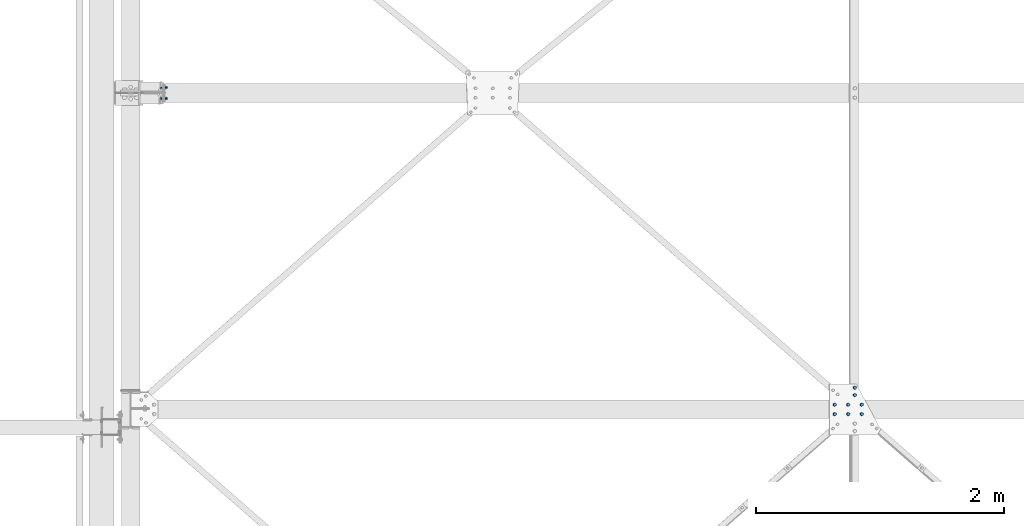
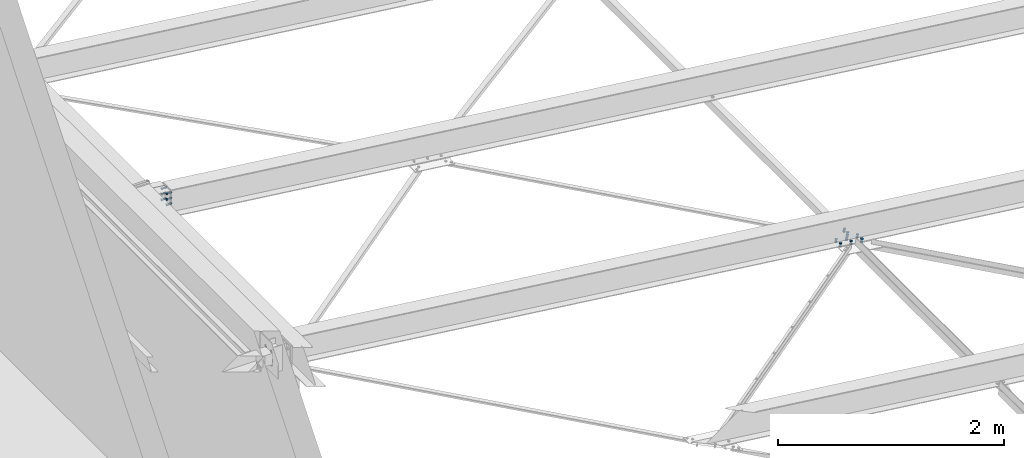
# One storey, part 30 of 3134: 3 mechanical fasteners, 3 elements without a shape of their own.
"""IFC2X3 building model written with IfcOpenShell, lengths in millimetres."""

from ifc_helpers import new_model, si_unit, frame, origin_with_axes, place, context, subcontext, project, spatial, faceted_brep, source, transform, mapped, material, type_object, element, aggregate, save


model = new_model("IFC2X3")

# Units and contexts
model_context = context("Model", 3, precision=1e-05, world=origin_with_axes())
body_context = subcontext(model_context, "Body", "Model", "MODEL_VIEW")
ifc_project = project(units=[si_unit("LENGTHUNIT", "METRE", prefix="MILLI"), si_unit("AREAUNIT", "SQUARE_METRE"), si_unit("VOLUMEUNIT", "CUBIC_METRE"), si_unit("MASSUNIT", "GRAM", prefix="KILO"), si_unit("TIMEUNIT", "SECOND"), si_unit("PLANEANGLEUNIT", "RADIAN"), si_unit("SOLIDANGLEUNIT", "STERADIAN"), si_unit("THERMODYNAMICTEMPERATUREUNIT", "DEGREE_CELSIUS"), si_unit("LUMINOUSINTENSITYUNIT", "LUMEN")], contexts=[model_context])

# Site, building, storey
site_placement = place(None, origin_with_axes())
site = spatial("IfcSite", under=ifc_project, at=site_placement, CompositionType="ELEMENT")
building_placement = place(site_placement, origin_with_axes())
building = spatial("IfcBuilding", under=site, at=building_placement, Name="Undefined", CompositionType="ELEMENT")
storey_placement = place(building_placement, origin_with_axes())
storey = spatial("IfcBuildingStorey", under=building, at=storey_placement, Name="Undefined", CompositionType="ELEMENT", Elevation=0.0)

# Assembly, mechanical fastener
assembly_1_placement = place(storey_placement, origin_with_axes())
assembly_1 = element("IfcElementAssembly", 1, at=assembly_1_placement, inside=storey, Name="IPE400", AssemblyPlace="NOTDEFINED", PredefinedType="RIGID_FRAME")
ifc_material = material(Name="8.8")
mechanical_fastener_type = type_object("IfcMechanicalFastenerType", Name="Bolt assembly")
shared_shape_1 = source(origin_with_axes(), body_context, "Body", "Brep", [
    faceted_brep([(13.856406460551, -33.499999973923, 0.0), (6.92820323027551, -33.499999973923, 12.0), (-6.92820323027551, -33.499999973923, 12.0), (-13.856406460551, -33.499999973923, 1.69692038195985e-15), (-6.92820323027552, -33.499999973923, -12.0), (6.9282032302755, -33.499999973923, -12.0), (6.9282032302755, -23.499999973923, -12.0), (-6.92820323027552, -23.499999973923, -12.0), (-13.856406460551, -23.499999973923, 1.69692038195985e-15), (-6.92820323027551, -23.499999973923, 12.0), (6.92820323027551, -23.499999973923, 12.0), (13.856406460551, -23.499999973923, 0.0), (8.0, -23.499999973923, 0.0), (6.92820323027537, -23.499999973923, 4.00000000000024), (3.99999999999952, -23.499999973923, 6.92820323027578), (-8.29068785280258e-13, -23.499999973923, 8.0), (-4.00000000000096, -23.499999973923, 6.92820323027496), (-6.9282032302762, -23.499999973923, 3.99999999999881), (-8.0, -23.499999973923, -1.65813757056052e-12), (-6.92820323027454, -23.499999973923, -4.00000000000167), (-3.99999999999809, -23.499999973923, -6.92820323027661), (2.47832457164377e-12, -23.499999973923, -8.0), (4.00000000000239, -23.499999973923, -6.92820323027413), (6.92820323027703, -23.499999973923, -3.99999999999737), (6.92820323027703, 21.500000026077, -3.99999999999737), (4.00000000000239, 21.500000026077, -6.92820323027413), (2.47832457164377e-12, 21.500000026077, -8.0), (-3.99999999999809, 21.500000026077, -6.92820323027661), (-6.92820323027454, 21.500000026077, -4.00000000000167), (-8.0, 21.500000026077, -1.65813757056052e-12), (-6.9282032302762, 21.500000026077, 3.99999999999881), (-4.00000000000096, 21.500000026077, 6.92820323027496), (-8.29068785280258e-13, 21.500000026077, 8.0), (3.99999999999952, 21.500000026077, 6.92820323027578), (6.92820323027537, 21.500000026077, 4.00000000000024), (8.0, 21.500000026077, 0.0), (13.856406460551, 0.0, 0.0), (6.92820323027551, 0.0, 12.0), (-6.92820323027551, 0.0, 12.0), (-13.856406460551, 0.0, 1.69692038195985e-15), (-6.92820323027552, 0.0, -12.0), (6.9282032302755, 0.0, -12.0), (6.9282032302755, 12.9999996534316, -12.0), (-6.92820323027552, 12.9999996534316, -12.0), (-13.856406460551, 12.9999996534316, 1.69692038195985e-15), (-6.92820323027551, 12.9999996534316, 12.0), (6.92820323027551, 12.9999996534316, 12.0), (13.856406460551, 12.9999996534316, 0.0)], [[[0, 1, 2, 3, 4, 5]], [[6, 7, 8, 9, 10, 11]], [[0, 11, 10, 1]], [[1, 10, 9, 2]], [[2, 9, 8, 3]], [[3, 8, 7, 4]], [[4, 7, 6, 5]], [[5, 6, 11, 0]], [[12, 13, 14, 15, 16, 17, 18, 19, 20, 21, 22, 23]], [[24, 25, 26, 27, 28, 29, 30, 31, 32, 33, 34, 35]], [[12, 35, 34, 13]], [[13, 34, 33, 14]], [[14, 33, 32, 15]], [[15, 32, 31, 16]], [[16, 31, 30, 17]], [[17, 30, 29, 18]], [[18, 29, 28, 19]], [[19, 28, 27, 20]], [[20, 27, 26, 21]], [[21, 26, 25, 22]], [[22, 25, 24, 23]], [[23, 24, 35, 12]], [[36, 37, 38, 39, 40, 41]], [[42, 43, 44, 45, 46, 47]], [[36, 47, 46, 37]], [[37, 46, 45, 38]], [[38, 45, 44, 39]], [[39, 44, 43, 40]], [[40, 43, 42, 41]], [[41, 42, 47, 36]]]),
    faceted_brep([(9.0, -10.1000003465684, 0.0), (7.79422863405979, -10.1000003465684, 4.50000000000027), (4.49999999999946, -10.1000003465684, 7.79422863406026), (-9.3270238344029e-13, -10.1000003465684, 9.0), (-4.50000000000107, -10.1000003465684, 7.79422863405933), (-7.79422863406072, -10.1000003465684, 4.49999999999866), (-9.0, -10.1000003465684, -1.86540476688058e-12), (-7.79422863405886, -10.1000003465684, -4.50000000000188), (-4.49999999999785, -10.1000003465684, -7.79422863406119), (2.78811514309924e-12, -10.1000003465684, -9.0), (4.50000000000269, -10.1000003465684, -7.7942286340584), (7.79422863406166, -10.1000003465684, -4.49999999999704), (7.79422863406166, -3.46568413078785e-07, -4.49999999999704), (4.50000000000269, -3.46568413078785e-07, -7.7942286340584), (2.78811514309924e-12, -3.46568413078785e-07, -9.0), (-4.49999999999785, -3.46568413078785e-07, -7.79422863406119), (-7.79422863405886, -3.46568413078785e-07, -4.50000000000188), (-9.0, -3.46568413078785e-07, -1.86540476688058e-12), (-7.79422863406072, -3.46568413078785e-07, 4.49999999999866), (-4.50000000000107, -3.46568413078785e-07, 7.79422863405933), (-9.3270238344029e-13, -3.46568413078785e-07, 9.0), (4.49999999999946, -3.46568413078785e-07, 7.79422863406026), (7.79422863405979, -3.46568413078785e-07, 4.50000000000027), (9.0, -3.46568413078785e-07, 0.0), (9.0, -23.399999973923, 0.0), (7.79422863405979, -23.399999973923, 4.50000000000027), (4.49999999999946, -23.399999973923, 7.79422863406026), (-9.3270238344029e-13, -23.399999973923, 9.0), (-4.50000000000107, -23.399999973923, 7.79422863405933), (-7.79422863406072, -23.399999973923, 4.49999999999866), (-9.0, -23.399999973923, -1.86540476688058e-12), (-7.79422863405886, -23.399999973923, -4.50000000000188), (-4.49999999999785, -23.399999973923, -7.79422863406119), (2.78811514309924e-12, -23.399999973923, -9.0), (4.50000000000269, -23.399999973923, -7.7942286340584), (7.79422863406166, -23.399999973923, -4.49999999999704), (7.79422863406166, -9.89999997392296, -4.49999999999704), (4.50000000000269, -9.89999997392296, -7.7942286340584), (2.78811514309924e-12, -9.89999997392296, -9.0), (-4.49999999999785, -9.89999997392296, -7.79422863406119), (-7.79422863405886, -9.89999997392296, -4.50000000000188), (-9.0, -9.89999997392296, -1.86540476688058e-12), (-7.79422863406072, -9.89999997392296, 4.49999999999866), (-4.50000000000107, -9.89999997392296, 7.79422863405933), (-9.3270238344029e-13, -9.89999997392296, 9.0), (4.49999999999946, -9.89999997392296, 7.79422863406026), (7.79422863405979, -9.89999997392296, 4.50000000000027), (9.0, -9.89999997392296, 0.0)], [[[0, 1, 2, 3, 4, 5, 6, 7, 8, 9, 10, 11]], [[12, 13, 14, 15, 16, 17, 18, 19, 20, 21, 22, 23]], [[0, 23, 22, 1]], [[1, 22, 21, 2]], [[2, 21, 20, 3]], [[3, 20, 19, 4]], [[4, 19, 18, 5]], [[5, 18, 17, 6]], [[6, 17, 16, 7]], [[7, 16, 15, 8]], [[8, 15, 14, 9]], [[9, 14, 13, 10]], [[10, 13, 12, 11]], [[11, 12, 23, 0]], [[24, 25, 26, 27, 28, 29, 30, 31, 32, 33, 34, 35]], [[36, 37, 38, 39, 40, 41, 42, 43, 44, 45, 46, 47]], [[24, 47, 46, 25]], [[25, 46, 45, 26]], [[26, 45, 44, 27]], [[27, 44, 43, 28]], [[28, 43, 42, 29]], [[29, 42, 41, 30]], [[30, 41, 40, 31]], [[31, 40, 39, 32]], [[32, 39, 38, 33]], [[33, 38, 37, 34]], [[34, 37, 36, 35]], [[35, 36, 47, 24]]]),
])
mechanical_fastener_1_placement = place(assembly_1_placement, frame((21125.0000003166, 7650.0, 5615.41113578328), z_axis=(0.0, 1.0, 0.0), x_axis=(0.0, 0.0, 1.0)))
mechanical_fastener_1 = element("IfcMechanicalFastener", 2, at=mechanical_fastener_1_placement, type_object=mechanical_fastener_type, material=ifc_material, Name="Bolt assembly", NominalDiameter=16.0, NominalLength=45.0, context=body_context, shape_type="MappedRepresentation", body=[
    mapped(shared_shape_1, transform((0.0, 0.0, -45.0))),
    mapped(shared_shape_1, transform((60.0, 0.0, -45.0))),
    mapped(shared_shape_1, transform((120.0, 0.0, -45.0))),
    mapped(shared_shape_1, transform((0.0, 0.0, 45.0))),
    mapped(shared_shape_1, transform((60.0, 0.0, 45.0))),
    mapped(shared_shape_1, transform((120.0, 0.0, 45.0))),
])
aggregate(assembly_1, [mechanical_fastener_1])

assembly_2_placement = place(storey_placement, origin_with_axes())
assembly_2 = element("IfcElementAssembly", 3, at=assembly_2_placement, inside=storey, Name="300", AssemblyPlace="NOTDEFINED", PredefinedType="RIGID_FRAME")
shared_shape_2 = source(origin_with_axes(), body_context, "Body", "Brep", [
    faceted_brep([(13.856406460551, -19.199990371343, 0.0), (6.92820323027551, -19.199990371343, 12.0), (-6.92820323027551, -19.199990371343, 12.0), (-13.856406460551, -19.199990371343, 1.69692038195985e-15), (-6.92820323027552, -19.199990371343, -12.0), (6.9282032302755, -19.199990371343, -12.0), (6.9282032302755, -9.19999037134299, -12.0), (-6.92820323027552, -9.19999037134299, -12.0), (-13.856406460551, -9.19999037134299, 1.69692038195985e-15), (-6.92820323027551, -9.19999037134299, 12.0), (6.92820323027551, -9.19999037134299, 12.0), (13.856406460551, -9.19999037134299, 0.0), (8.0, -9.19999037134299, 0.0), (6.92820323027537, -9.19999037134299, 4.00000000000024), (3.99999999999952, -9.19999037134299, 6.92820323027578), (-8.29068785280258e-13, -9.19999037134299, 8.0), (-4.00000000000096, -9.19999037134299, 6.92820323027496), (-6.9282032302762, -9.19999037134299, 3.99999999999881), (-8.0, -9.19999037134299, -1.65813757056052e-12), (-6.92820323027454, -9.19999037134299, -4.00000000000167), (-3.99999999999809, -9.19999037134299, -6.92820323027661), (2.47832457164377e-12, -9.19999037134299, -8.0), (4.00000000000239, -9.19999037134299, -6.92820323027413), (6.92820323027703, -9.19999037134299, -3.99999999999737), (6.92820323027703, 25.800009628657, -3.99999999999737), (4.00000000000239, 25.800009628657, -6.92820323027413), (2.47832457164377e-12, 25.800009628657, -8.0), (-3.99999999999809, 25.800009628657, -6.92820323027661), (-6.92820323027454, 25.800009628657, -4.00000000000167), (-8.0, 25.800009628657, -1.65813757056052e-12), (-6.9282032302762, 25.800009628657, 3.99999999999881), (-4.00000000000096, 25.800009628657, 6.92820323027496), (-8.29068785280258e-13, 25.800009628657, 8.0), (3.99999999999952, 25.800009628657, 6.92820323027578), (6.92820323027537, 25.800009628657, 4.00000000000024), (8.0, 25.800009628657, 0.0), (13.856406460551, 8.00000637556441, 0.0), (6.92820323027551, 8.00000637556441, 12.0), (-6.92820323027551, 8.00000637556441, 12.0), (-13.856406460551, 8.00000637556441, 1.69692038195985e-15), (-6.92820323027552, 8.00000637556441, -12.0), (6.9282032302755, 8.00000637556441, -12.0), (6.9282032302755, 21.0000063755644, -12.0), (-6.92820323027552, 21.0000063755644, -12.0), (-13.856406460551, 21.0000063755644, 1.69692038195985e-15), (-6.92820323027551, 21.0000063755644, 12.0), (6.92820323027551, 21.0000063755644, 12.0), (13.856406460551, 21.0000063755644, 0.0)], [[[0, 1, 2, 3, 4, 5]], [[6, 7, 8, 9, 10, 11]], [[0, 11, 10, 1]], [[1, 10, 9, 2]], [[2, 9, 8, 3]], [[3, 8, 7, 4]], [[4, 7, 6, 5]], [[5, 6, 11, 0]], [[12, 13, 14, 15, 16, 17, 18, 19, 20, 21, 22, 23]], [[24, 25, 26, 27, 28, 29, 30, 31, 32, 33, 34, 35]], [[12, 35, 34, 13]], [[13, 34, 33, 14]], [[14, 33, 32, 15]], [[15, 32, 31, 16]], [[16, 31, 30, 17]], [[17, 30, 29, 18]], [[18, 29, 28, 19]], [[19, 28, 27, 20]], [[20, 27, 26, 21]], [[21, 26, 25, 22]], [[22, 25, 24, 23]], [[23, 24, 35, 12]], [[36, 37, 38, 39, 40, 41]], [[42, 43, 44, 45, 46, 47]], [[36, 47, 46, 37]], [[37, 46, 45, 38]], [[38, 45, 44, 39]], [[39, 44, 43, 40]], [[40, 43, 42, 41]], [[41, 42, 47, 36]]]),
    faceted_brep([(9.0, -0.1, 0.0), (7.79422863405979, -0.1, 4.50000000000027), (4.49999999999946, -0.1, 7.79422863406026), (-9.3270238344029e-13, -0.1, 9.0), (-4.50000000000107, -0.1, 7.79422863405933), (-7.79422863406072, -0.1, 4.49999999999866), (-9.0, -0.1, -1.86540476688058e-12), (-7.79422863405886, -0.1, -4.50000000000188), (-4.49999999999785, -0.1, -7.79422863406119), (2.78811514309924e-12, -0.1, -9.0), (4.50000000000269, -0.1, -7.7942286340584), (7.79422863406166, -0.1, -4.49999999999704), (7.79422863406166, 8.00000000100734, -4.49999999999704), (4.50000000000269, 8.00000000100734, -7.7942286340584), (2.78811514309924e-12, 8.00000000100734, -9.0), (-4.49999999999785, 8.00000000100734, -7.79422863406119), (-7.79422863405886, 8.00000000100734, -4.50000000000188), (-9.0, 8.00000000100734, -1.86540476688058e-12), (-7.79422863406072, 8.00000000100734, 4.49999999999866), (-4.50000000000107, 8.00000000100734, 7.79422863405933), (-9.3270238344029e-13, 8.00000000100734, 9.0), (4.49999999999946, 8.00000000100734, 7.79422863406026), (7.79422863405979, 8.00000000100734, 4.50000000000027), (9.0, 8.00000000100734, 0.0), (9.0, -9.09999037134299, 0.0), (7.79422863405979, -9.09999037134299, 4.50000000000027), (4.49999999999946, -9.09999037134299, 7.79422863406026), (-9.3270238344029e-13, -9.09999037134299, 9.0), (-4.50000000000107, -9.09999037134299, 7.79422863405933), (-7.79422863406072, -9.09999037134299, 4.49999999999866), (-9.0, -9.09999037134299, -1.86540476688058e-12), (-7.79422863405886, -9.09999037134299, -4.50000000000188), (-4.49999999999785, -9.09999037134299, -7.79422863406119), (2.78811514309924e-12, -9.09999037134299, -9.0), (4.50000000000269, -9.09999037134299, -7.7942286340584), (7.79422863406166, -9.09999037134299, -4.49999999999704), (7.79422863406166, 0.100000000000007, -4.49999999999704), (4.50000000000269, 0.100000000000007, -7.7942286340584), (2.78811514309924e-12, 0.100000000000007, -9.0), (-4.49999999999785, 0.100000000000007, -7.79422863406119), (-7.79422863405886, 0.100000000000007, -4.50000000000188), (-9.0, 0.100000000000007, -1.86540476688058e-12), (-7.79422863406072, 0.100000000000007, 4.49999999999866), (-4.50000000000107, 0.100000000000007, 7.79422863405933), (-9.3270238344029e-13, 0.100000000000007, 9.0), (4.49999999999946, 0.100000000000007, 7.79422863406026), (7.79422863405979, 0.100000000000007, 4.50000000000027), (9.0, 0.100000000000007, 0.0)], [[[0, 1, 2, 3, 4, 5, 6, 7, 8, 9, 10, 11]], [[12, 13, 14, 15, 16, 17, 18, 19, 20, 21, 22, 23]], [[0, 23, 22, 1]], [[1, 22, 21, 2]], [[2, 21, 20, 3]], [[3, 20, 19, 4]], [[4, 19, 18, 5]], [[5, 18, 17, 6]], [[6, 17, 16, 7]], [[7, 16, 15, 8]], [[8, 15, 14, 9]], [[9, 14, 13, 10]], [[10, 13, 12, 11]], [[11, 12, 23, 0]], [[24, 25, 26, 27, 28, 29, 30, 31, 32, 33, 34, 35]], [[36, 37, 38, 39, 40, 41, 42, 43, 44, 45, 46, 47]], [[24, 47, 46, 25]], [[25, 46, 45, 26]], [[26, 45, 44, 27]], [[27, 44, 43, 28]], [[28, 43, 42, 29]], [[29, 42, 41, 30]], [[30, 41, 40, 31]], [[31, 40, 39, 32]], [[32, 39, 38, 33]], [[33, 38, 37, 34]], [[34, 37, 36, 35]], [[35, 36, 47, 24]]]),
])
mechanical_fastener_2_placement = place(assembly_2_placement, frame((26633.3906860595, 5062.0, 4813.40180628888), z_axis=(-0.992623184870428, 0.0, 0.121240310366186), x_axis=(0.0, 1.0, 0.0)))
mechanical_fastener_2 = element("IfcMechanicalFastener", 4, at=mechanical_fastener_2_placement, type_object=mechanical_fastener_type, material=ifc_material, Name="Bolt assembly", NominalDiameter=16.0, NominalLength=35.0, context=body_context, shape_type="MappedRepresentation", body=[
    mapped(shared_shape_2, transform((0.0, 1.8644641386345e-10, -109.999999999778))),
    mapped(shared_shape_2, transform((76.0, 1.8644641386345e-10, -109.999999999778))),
    mapped(shared_shape_2, transform((0.0, 0.0, 0.0))),
    mapped(shared_shape_2, transform((76.0, 0.0, 0.0))),
    mapped(shared_shape_2, transform((0.0, -1.8644641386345e-10, 109.999999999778))),
    mapped(shared_shape_2, transform((76.0, -1.8644641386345e-10, 109.999999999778))),
])
aggregate(assembly_2, [mechanical_fastener_2])

assembly_3_placement = place(storey_placement, origin_with_axes())
assembly_3 = element("IfcElementAssembly", 5, at=assembly_3_placement, inside=storey, Name="PL8", AssemblyPlace="NOTDEFINED", PredefinedType="RIGID_FRAME")
shared_shape_3 = source(origin_with_axes(), body_context, "Body", "Brep", [
    faceted_brep([(13.856406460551, -10.0, 0.0), (6.92820323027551, -10.0, 12.0), (-6.92820323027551, -10.0, 12.0), (-13.856406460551, -10.0, 1.69692038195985e-15), (-6.92820323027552, -10.0, -12.0), (6.9282032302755, -10.0, -12.0), (6.9282032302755, 0.0, -12.0), (-6.92820323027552, 0.0, -12.0), (-13.856406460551, 0.0, 1.69692038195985e-15), (-6.92820323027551, 0.0, 12.0), (6.92820323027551, 0.0, 12.0), (13.856406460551, 0.0, 0.0), (8.0, 0.0, 0.0), (6.92820323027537, 0.0, 4.00000000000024), (3.99999999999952, 0.0, 6.92820323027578), (-8.29068785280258e-13, 0.0, 8.0), (-4.00000000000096, 0.0, 6.92820323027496), (-6.9282032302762, 0.0, 3.99999999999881), (-8.0, 0.0, -1.65813757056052e-12), (-6.92820323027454, 0.0, -4.00000000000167), (-3.99999999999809, 0.0, -6.92820323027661), (2.47832457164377e-12, 0.0, -8.0), (4.00000000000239, 0.0, -6.92820323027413), (6.92820323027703, 0.0, -3.99999999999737), (6.92820323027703, 35.0000000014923, -3.99999999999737), (4.00000000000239, 35.0000000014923, -6.92820323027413), (2.47832457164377e-12, 35.0000000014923, -8.0), (-3.99999999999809, 35.0000000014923, -6.92820323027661), (-6.92820323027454, 35.0000000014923, -4.00000000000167), (-8.0, 35.0000000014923, -1.65813757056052e-12), (-6.9282032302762, 35.0000000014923, 3.99999999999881), (-4.00000000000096, 35.0000000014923, 6.92820323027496), (-8.29068785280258e-13, 35.0000000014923, 8.0), (3.99999999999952, 35.0000000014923, 6.92820323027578), (6.92820323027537, 35.0000000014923, 4.00000000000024), (8.0, 35.0000000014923, 0.0), (13.856406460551, 14.9999995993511, 0.0), (6.92820323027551, 14.9999995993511, 12.0), (-6.92820323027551, 14.9999995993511, 12.0), (-13.856406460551, 14.9999995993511, 1.69692038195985e-15), (-6.92820323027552, 14.9999995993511, -12.0), (6.9282032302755, 14.9999995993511, -12.0), (6.9282032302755, 27.9999995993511, -12.0), (-6.92820323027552, 27.9999995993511, -12.0), (-13.856406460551, 27.9999995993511, 1.69692038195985e-15), (-6.92820323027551, 27.9999995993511, 12.0), (6.92820323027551, 27.9999995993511, 12.0), (13.856406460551, 27.9999995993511, 0.0)], [[[0, 1, 2, 3, 4, 5]], [[6, 7, 8, 9, 10, 11]], [[0, 11, 10, 1]], [[1, 10, 9, 2]], [[2, 9, 8, 3]], [[3, 8, 7, 4]], [[4, 7, 6, 5]], [[5, 6, 11, 0]], [[12, 13, 14, 15, 16, 17, 18, 19, 20, 21, 22, 23]], [[24, 25, 26, 27, 28, 29, 30, 31, 32, 33, 34, 35]], [[12, 35, 34, 13]], [[13, 34, 33, 14]], [[14, 33, 32, 15]], [[15, 32, 31, 16]], [[16, 31, 30, 17]], [[17, 30, 29, 18]], [[18, 29, 28, 19]], [[19, 28, 27, 20]], [[20, 27, 26, 21]], [[21, 26, 25, 22]], [[22, 25, 24, 23]], [[23, 24, 35, 12]], [[36, 37, 38, 39, 40, 41]], [[42, 43, 44, 45, 46, 47]], [[36, 47, 46, 37]], [[37, 46, 45, 38]], [[38, 45, 44, 39]], [[39, 44, 43, 40]], [[40, 43, 42, 41]], [[41, 42, 47, 36]]]),
    faceted_brep([(9.0, 7.9, 0.0), (7.79422863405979, 7.9, 4.50000000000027), (4.49999999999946, 7.9, 7.79422863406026), (-9.3270238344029e-13, 7.9, 9.0), (-4.50000000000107, 7.9, 7.79422863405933), (-7.79422863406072, 7.9, 4.49999999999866), (-9.0, 7.9, -1.86540476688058e-12), (-7.79422863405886, 7.9, -4.50000000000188), (-4.49999999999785, 7.9, -7.79422863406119), (2.78811514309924e-12, 7.9, -9.0), (4.50000000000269, 7.9, -7.7942286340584), (7.79422863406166, 7.9, -4.49999999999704), (7.79422863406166, 14.9999995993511, -4.49999999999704), (4.50000000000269, 14.9999995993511, -7.7942286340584), (2.78811514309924e-12, 14.9999995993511, -9.0), (-4.49999999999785, 14.9999995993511, -7.79422863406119), (-7.79422863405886, 14.9999995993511, -4.50000000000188), (-9.0, 14.9999995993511, -1.86540476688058e-12), (-7.79422863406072, 14.9999995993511, 4.49999999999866), (-4.50000000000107, 14.9999995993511, 7.79422863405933), (-9.3270238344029e-13, 14.9999995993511, 9.0), (4.49999999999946, 14.9999995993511, 7.79422863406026), (7.79422863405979, 14.9999995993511, 4.50000000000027), (9.0, 14.9999995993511, 0.0), (9.0, 0.100000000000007, 0.0), (7.79422863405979, 0.100000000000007, 4.50000000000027), (4.49999999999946, 0.100000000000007, 7.79422863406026), (-9.3270238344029e-13, 0.100000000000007, 9.0), (-4.50000000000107, 0.100000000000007, 7.79422863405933), (-7.79422863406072, 0.100000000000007, 4.49999999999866), (-9.0, 0.100000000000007, -1.86540476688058e-12), (-7.79422863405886, 0.100000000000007, -4.50000000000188), (-4.49999999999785, 0.100000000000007, -7.79422863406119), (2.78811514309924e-12, 0.100000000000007, -9.0), (4.50000000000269, 0.100000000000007, -7.7942286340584), (7.79422863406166, 0.100000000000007, -4.49999999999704), (7.79422863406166, 8.1, -4.49999999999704), (4.50000000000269, 8.1, -7.7942286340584), (2.78811514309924e-12, 8.1, -9.0), (-4.49999999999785, 8.1, -7.79422863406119), (-7.79422863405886, 8.1, -4.50000000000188), (-9.0, 8.1, -1.86540476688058e-12), (-7.79422863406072, 8.1, 4.49999999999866), (-4.50000000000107, 8.1, 7.79422863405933), (-9.3270238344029e-13, 8.1, 9.0), (4.49999999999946, 8.1, 7.79422863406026), (7.79422863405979, 8.1, 4.50000000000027), (9.0, 8.1, 0.0)], [[[0, 1, 2, 3, 4, 5, 6, 7, 8, 9, 10, 11]], [[12, 13, 14, 15, 16, 17, 18, 19, 20, 21, 22, 23]], [[0, 23, 22, 1]], [[1, 22, 21, 2]], [[2, 21, 20, 3]], [[3, 20, 19, 4]], [[4, 19, 18, 5]], [[5, 18, 17, 6]], [[6, 17, 16, 7]], [[7, 16, 15, 8]], [[8, 15, 14, 9]], [[9, 14, 13, 10]], [[10, 13, 12, 11]], [[11, 12, 23, 0]], [[24, 25, 26, 27, 28, 29, 30, 31, 32, 33, 34, 35]], [[36, 37, 38, 39, 40, 41, 42, 43, 44, 45, 46, 47]], [[24, 47, 46, 25]], [[25, 46, 45, 26]], [[26, 45, 44, 27]], [[27, 44, 43, 28]], [[28, 43, 42, 29]], [[29, 42, 41, 30]], [[30, 41, 40, 31]], [[31, 40, 39, 32]], [[32, 39, 38, 33]], [[33, 38, 37, 34]], [[34, 37, 36, 35]], [[35, 36, 47, 24]]]),
])
mechanical_fastener_3_placement = place(assembly_3_placement, frame((26687.9849612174, 5274.99999999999, 4806.733589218), z_axis=(0.992623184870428, 0.0, -0.121240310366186), x_axis=(0.0, -1.0, 0.0)))
mechanical_fastener_3 = element("IfcMechanicalFastener", 6, at=mechanical_fastener_3_placement, type_object=mechanical_fastener_type, material=ifc_material, Name="Bolt assembly", NominalDiameter=16.0, NominalLength=35.0, context=body_context, shape_type="MappedRepresentation", body=[
    mapped(shared_shape_3, transform((0.0, 0.0, 0.0))),
    mapped(shared_shape_3, transform((59.9999999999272, 0.0, 5.40239852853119e-10))),
])
aggregate(assembly_3, [mechanical_fastener_3])

save(model, "model.ifc")
